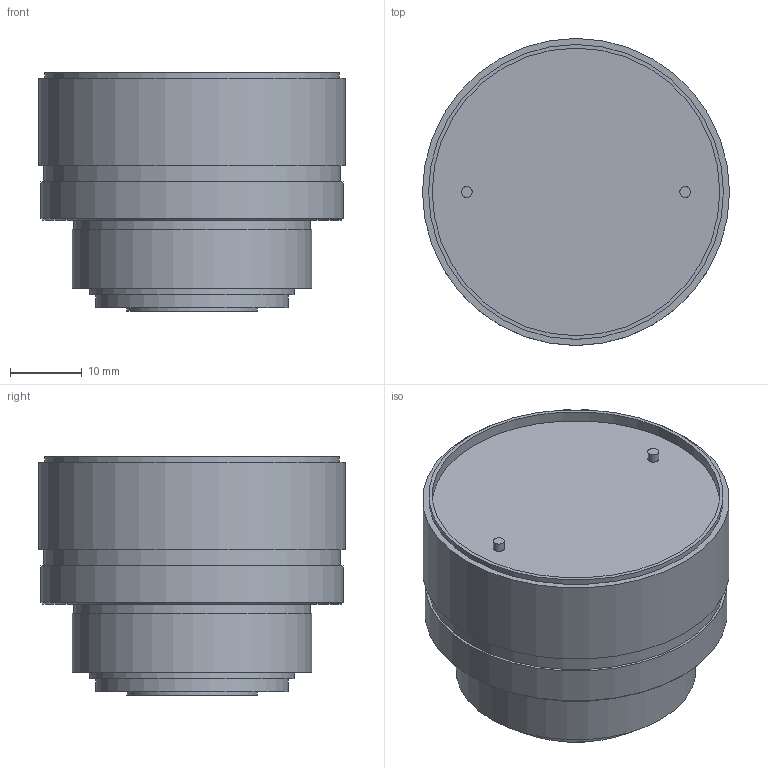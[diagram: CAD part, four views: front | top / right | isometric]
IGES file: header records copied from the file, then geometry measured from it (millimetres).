
Global section: file name: No Iges File Name specified; native system: AutoDesk Inventor R6.0; preprocessor: AutoDesk Inventor Iges Exporter R6.0; author: No Author specified; organization: No Organization specified; date: 20080102.170952; units: inch
Bounding box: 42.85 x 42.85 x 33.27 mm (x, y, z)
Surface area: 11046.6 mm2 (no closed solid volume)
Topology: 0 solids, 0 shells, 64 faces, 314 edges, 293 vertices
Faces by surface type: plane 42, revolution 18, bspline 4
